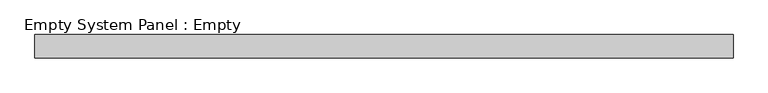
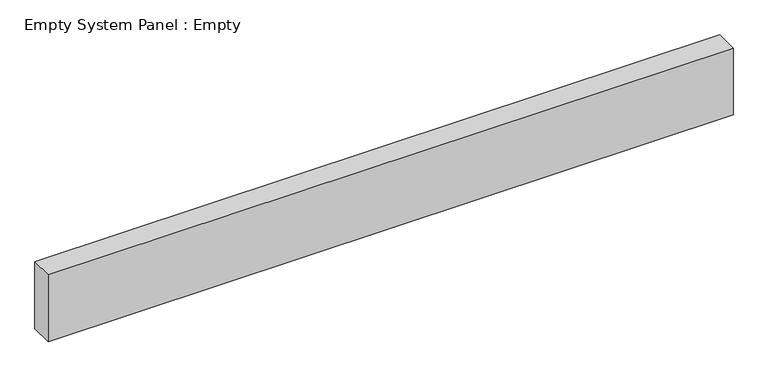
"""IFC4 building model written with IfcOpenShell, lengths in millimetres: plate geometry, Empty System Panel : Empty."""

from ifc_helpers import new_model, si_unit, origin, origin_with_axes, place, context, project, spatial, polyline, outline, extrude, source, transform, mapped, element, save


def empty_system_panel_empty_14cff943(model_context):
    return source(origin(), model_context, "Body", "SweptSolid", [
        extrude(outline(polyline([(1500.0, -50.0), (-1500.0, -50.0), (-1500.0, 50.0), (1500.0, 50.0), (1500.0, -50.0)])), origin_with_axes(), (0.0, 0.0, 1.0), 309.6949135),
    ])


if __name__ == "__main__":
    model = new_model("IFC4")
    model_context = context("Model", 3, world=origin())
    ifc_project = project(units=[si_unit("LENGTHUNIT", "METRE", prefix="MILLI")], contexts=[model_context])
    site = spatial("IfcSite", under=ifc_project)
    building = spatial("IfcBuilding", under=site)
    placement = place(None, origin())
    empty_system_panel_empty_shape = empty_system_panel_empty_14cff943(model_context)
    element("IfcPlate", 1, ObjectType="Empty System Panel : Empty", at=placement, inside=building, context=model_context, shape_type="MappedRepresentation", body=[
        mapped(empty_system_panel_empty_shape, transform((0.0, 0.0, 0.0), x_axis=(1.0, 0.0, 0.0), y_axis=(0.0, 1.0, 0.0), z_axis=(0.0, 0.0, 1.0))),
    ])
    save(model, "model.ifc")
